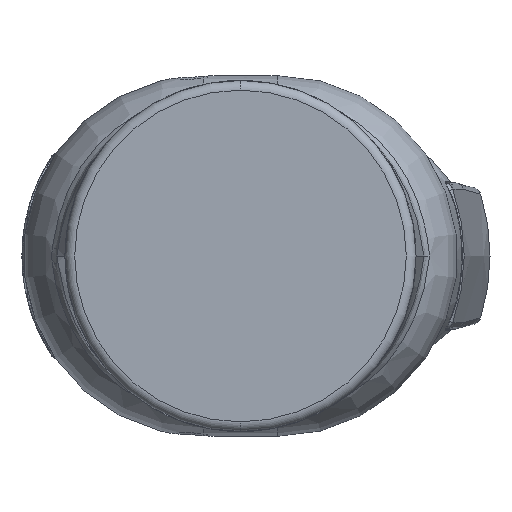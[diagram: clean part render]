
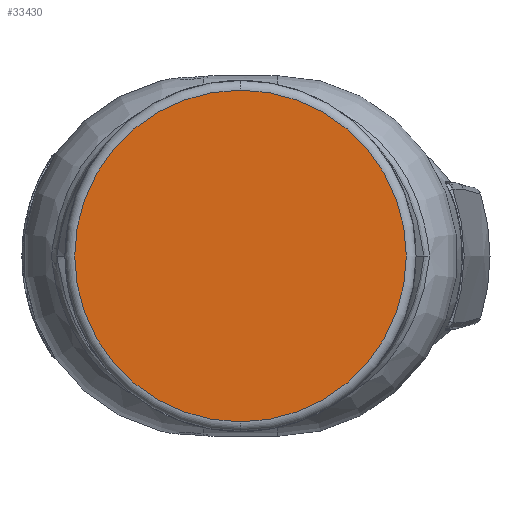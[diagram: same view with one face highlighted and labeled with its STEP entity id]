
A CAD part, left-side view. The second image highlights one B-rep face of the part: STEP entity #33430.
In plain terms, the highlighted planar face has unit normal (-1, 0, 0).
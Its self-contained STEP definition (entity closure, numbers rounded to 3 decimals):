
#156 = CARTESIAN_POINT ( 'NONE',  ( -203., -3.75, -17. ) ) ;
#1099 = AXIS2_PLACEMENT_3D ( 'NONE', #19829, #23621, #20053 ) ;
#3394 = VERTEX_POINT ( 'NONE', #26277 ) ;
#3771 = DIRECTION ( 'NONE',  ( -1., 0., 0. ) ) ;
#5881 = ORIENTED_EDGE ( 'NONE', *, *, #27676, .T. ) ;
#10722 = PLANE ( 'NONE',  #29919 ) ;
#19829 = CARTESIAN_POINT ( 'NONE',  ( -203., -3.75, 0. ) ) ;
#20053 = DIRECTION ( 'NONE',  ( 0., 0., -1. ) ) ;
#20881 = DIRECTION ( 'NONE',  ( 1., 0., 0. ) ) ;
#21752 = CARTESIAN_POINT ( 'NONE',  ( -203., -3.75, 0. ) ) ;
#21914 = VERTEX_POINT ( 'NONE', #156 ) ;
#22297 = CIRCLE ( 'NONE', #1099, 17. ) ;
#23621 = DIRECTION ( 'NONE',  ( -1., 0., 0. ) ) ;
#24920 = DIRECTION ( 'NONE',  ( 0., 0., -1. ) ) ;
#25146 = CARTESIAN_POINT ( 'NONE',  ( -203., -3.75, 0. ) ) ;
#26277 = CARTESIAN_POINT ( 'NONE',  ( -203., -3.75, 17. ) ) ;
#27676 = EDGE_CURVE ( 'NONE', #3394, #21914, #30339, .T. ) ;
#27735 = FACE_OUTER_BOUND ( 'NONE', #32596, .T. ) ;
#29919 = AXIS2_PLACEMENT_3D ( 'NONE', #25146, #20881, #24920 ) ;
#30339 = CIRCLE ( 'NONE', #37169, 17. ) ;
#32306 = EDGE_CURVE ( 'NONE', #21914, #3394, #22297, .T. ) ;
#32596 = EDGE_LOOP ( 'NONE', ( #44347, #5881 ) ) ;
#32861 = DIRECTION ( 'NONE',  ( 0., 0., -1. ) ) ;
#33430 = ADVANCED_FACE ( 'NONE', ( #27735 ), #10722, .F. ) ;
#37169 = AXIS2_PLACEMENT_3D ( 'NONE', #21752, #3771, #32861 ) ;
#44347 = ORIENTED_EDGE ( 'NONE', *, *, #32306, .T. ) ;
